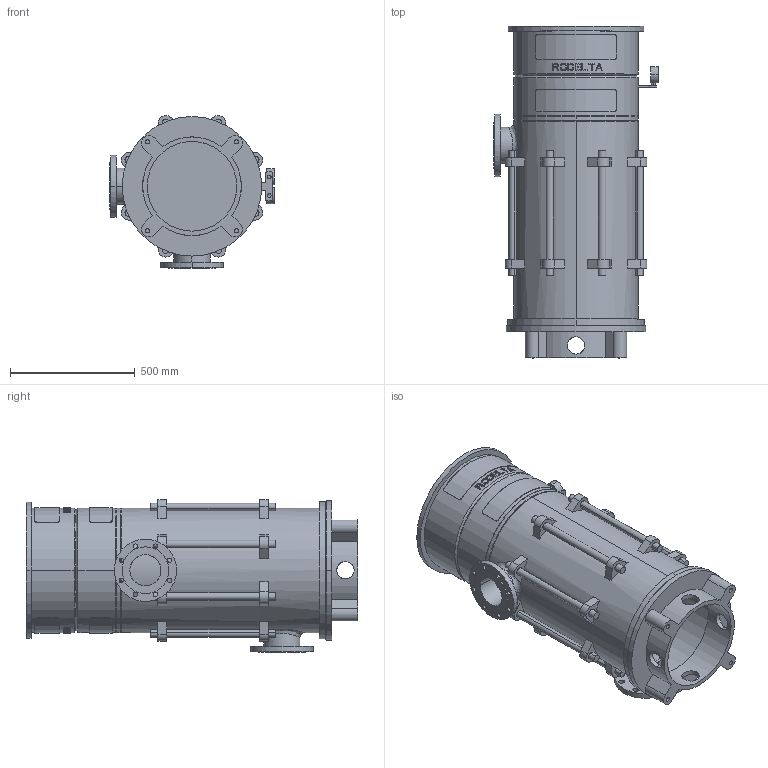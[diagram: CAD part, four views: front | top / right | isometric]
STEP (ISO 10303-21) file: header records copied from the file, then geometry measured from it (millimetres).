
FILE_DESCRIPTION((''),'2;1');
FILE_NAME('LS5_4TR_0GR_ABOVE_30KW','2023-08-08T',('Lyritlocal'),(''),'PRO/ENGINEER BY PARAMETRIC TECHNOLOGY CORPORATION, 2016360','PRO/ENGINEER BY PARAMETRIC TECHNOLOGY CORPORATION, 2016360','');
FILE_SCHEMA(('CONFIG_CONTROL_DESIGN'));
Length unit declared in the file: millimetre
Products named in the file (1): LS5_4TR_0GR_ABOVE_30KW
Bounding box: 660 x 1332 x 614.04 mm (x, y, z)
Volume: 41547259 mm3; surface area: 5975805.1 mm2
Topology: 3 solids, 7 shells, 672 faces, 1749 edges, 1158 vertices
Faces by surface type: plane 414, cylinder 242, cone 12, bspline 4
Entity records: 21987 total; most frequent: CARTESIAN_POINT 5535, ORIENTED_EDGE 3482, DIRECTION 3271, EDGE_CURVE 1749, AXIS2_PLACEMENT_3D 1241, VERTEX_POINT 1158, EDGE_LOOP 807, VECTOR 789
